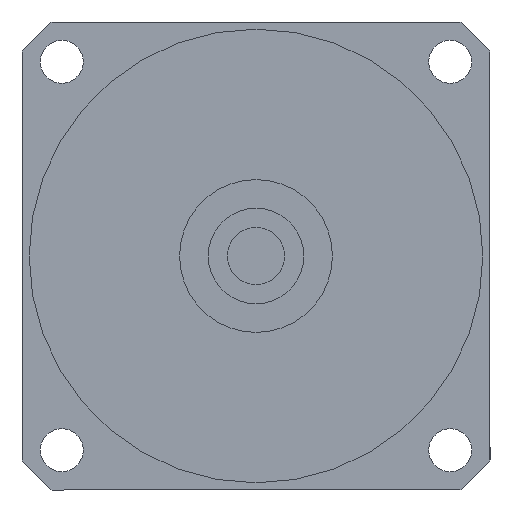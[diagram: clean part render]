
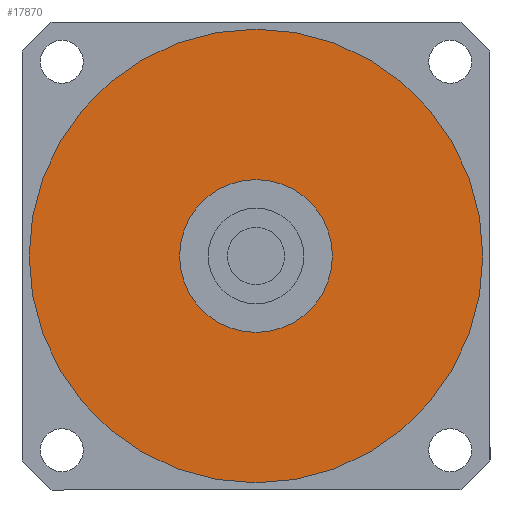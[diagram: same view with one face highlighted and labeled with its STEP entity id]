
A CAD part, left-side view. The second image highlights one B-rep face of the part: STEP entity #17870.
In plain terms, the highlighted planar face has unit normal (-1, 0, 0) as drawn and (0, 0, -1) by its records, which use the part's own axes.
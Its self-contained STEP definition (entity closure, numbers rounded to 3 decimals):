
#17390=CARTESIAN_POINT('',(47.5,0.,-88.5));
#17400=VERTEX_POINT('',#17390);
#17480=CARTESIAN_POINT('',(-47.5,0.,-88.5));
#17490=VERTEX_POINT('',#17480);
#17520=CARTESIAN_POINT('',(0.,0.,
-88.5));
#17530=DIRECTION('',(0.,0.,1.));
#17540=DIRECTION('',(0.,-1.,0.));
#17550=AXIS2_PLACEMENT_3D('',#17520,#17530,#17540);
#17560=CIRCLE('',#17550,47.5);
#17570=EDGE_CURVE('',#17400,#17490,#17560,.T.);
#17620=CARTESIAN_POINT('',(0.,0.,
-88.5));
#17630=DIRECTION('',(0.,0.,1.));
#17640=DIRECTION('',(-1.,0.,0.));
#17650=AXIS2_PLACEMENT_3D('',#17620,#17630,#17640);
#17660=PLANE('',#17650);
#17670=EDGE_CURVE('',#17490,#17400,#17560,.T.);
#17680=ORIENTED_EDGE('',*,*,#17670,.F.);
#17690=ORIENTED_EDGE('',*,*,#17570,.F.);
#17700=EDGE_LOOP('',(#17690,#17680));
#17710=FACE_OUTER_BOUND('',#17700,.T.);
#17720=CARTESIAN_POINT('',(0.,0.,
-88.5));
#17730=DIRECTION('',(0.,0.,1.));
#17740=DIRECTION('',(0.,-1.,0.));
#17750=AXIS2_PLACEMENT_3D('',#17720,#17730,#17740);
#17760=CIRCLE('',#17750,16.);
#17770=CARTESIAN_POINT('',(16.,0.,-88.5));
#17780=VERTEX_POINT('',#17770);
#17790=CARTESIAN_POINT('',(-16.,0.,-88.5));
#17800=VERTEX_POINT('',#17790);
#17810=EDGE_CURVE('',#17780,#17800,#17760,.T.);
#17820=ORIENTED_EDGE('',*,*,#17810,.T.);
#17830=EDGE_CURVE('',#17800,#17780,#17760,.T.);
#17840=ORIENTED_EDGE('',*,*,#17830,.T.);
#17850=EDGE_LOOP('',(#17840,#17820));
#17860=FACE_BOUND('',#17850,.T.);
#17870=ADVANCED_FACE('',(#17710,#17860),#17660,.F.);
